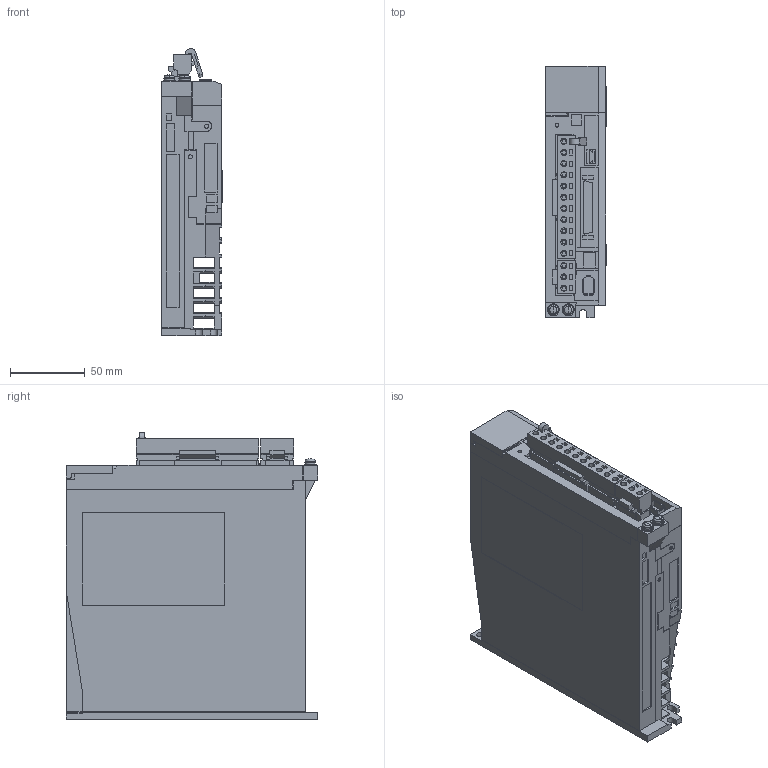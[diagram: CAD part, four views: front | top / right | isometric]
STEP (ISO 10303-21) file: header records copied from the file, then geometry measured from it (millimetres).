
FILE_DESCRIPTION((''),'2;1');
FILE_NAME('SGDXS-2R8A00A_ASM','2022-02-23T',('liubing_shen'),('Yaskawa Electric (Shenyang) Co.,Ltd'),'PRO/ENGINEER BY PARAMETRIC TECHNOLOGY CORPORATION, 2017170','PRO/ENGINEER BY PARAMETRIC TECHNOLOGY CORPORATION, 2017170','');
FILE_SCHEMA(('AUTOMOTIVE_DESIGN { 1 0 10303 214 1 1 1 1 }'));
Length unit declared in the file: millimetre
Products named in the file (11): SGDXS-2R8A00A_BASE_2_3_1; SGDXS_2R8A00A_CONNECTOR_1_1_3_1; SGDXS_2R8A00A_CONNECTOR_2_1_3_1; SGDXS_2R8A00A_PIN_1_1_3_1; SGDXS_2R8A00A_COVER2_1_3_1; SGDXS_2R8A00A_COVER3_1_3_1; SGDXS-2R8A00A_CONNECTOR_3_1_3_1; SGDXS_2R8A00A_COVER1_1_3_1; SGDXS-2R8A00A_ASM_4_ASM_1_ASM; SGDXS-2R8A00A_ASM_1_ASM; SGDXS-2R8A00A_ASM
Assembly tree (10 placements, depth 4):
  SGDXS-2R8A00A_ASM
    SGDXS-2R8A00A_ASM_1_ASM
      SGDXS-2R8A00A_ASM_4_ASM_1_ASM
        SGDXS-2R8A00A_BASE_2_3_1
        SGDXS_2R8A00A_CONNECTOR_1_1_3_1
        SGDXS_2R8A00A_CONNECTOR_2_1_3_1
        SGDXS_2R8A00A_PIN_1_1_3_1
        SGDXS_2R8A00A_COVER2_1_3_1
        SGDXS_2R8A00A_COVER3_1_3_1
        SGDXS-2R8A00A_CONNECTOR_3_1_3_1
        SGDXS_2R8A00A_COVER1_1_3_1
Bounding box: 40.52 x 168 x 192.01 mm (x, y, z)
Volume: 965278.8 mm3; surface area: 146779.9 mm2
Topology: 8 solids, 8 shells, 1744 faces, 4634 edges, 3069 vertices
Faces by surface type: plane 1525, cylinder 199, torus 12, cone 4, sphere 4
Entity records: 68965 total; most frequent: CARTESIAN_POINT 9546, ORIENTED_EDGE 9260, DIRECTION 8664, EDGE_CURVE 4630, VECTOR 4120, LINE 4120, VERTEX_POINT 3069, AXIS2_PLACEMENT_3D 2272
